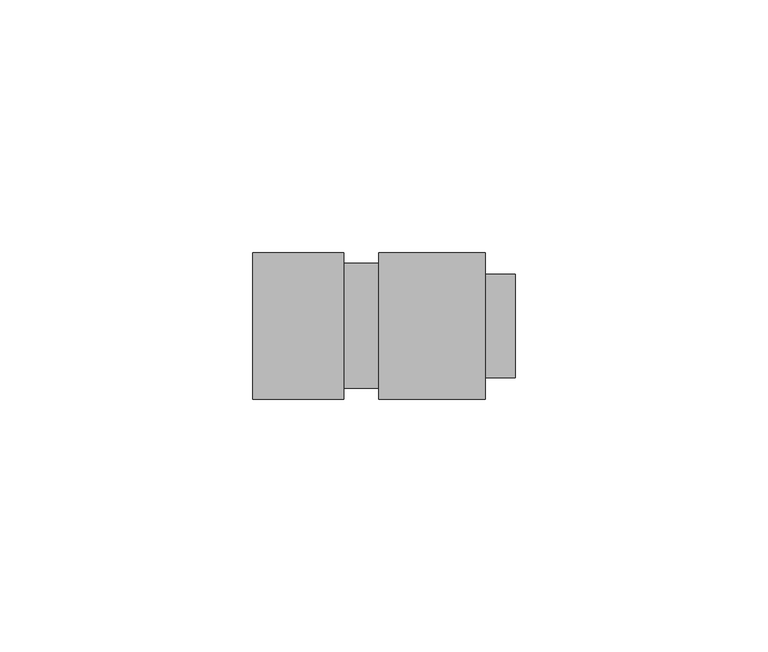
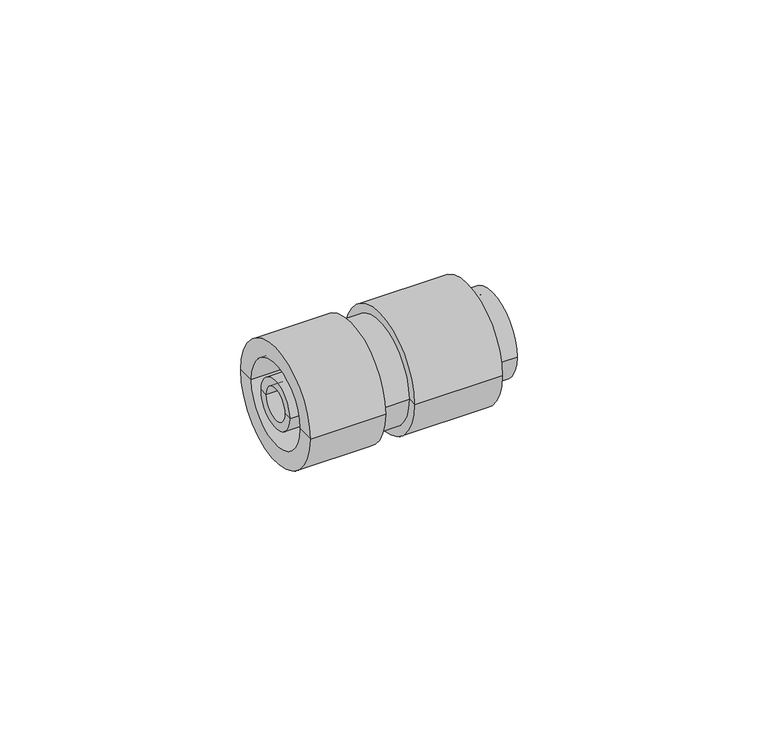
"""IFC4 building model written with IfcOpenShell, lengths in millimetres: cable carrier fitting geometry, КНС_ПереходникАрмированнаяТрубаКоробка_IP65_DKC : Коробка."""

from ifc_helpers import new_model, si_unit, frame, origin, place, context, project, spatial, polyline, circle_curve, source, transform, mapped, element, save
from ifc_brep_helpers import plane_surface, cylinder_surface, revolved_surface, advanced_brep


def cable_carrier_fitting_1d1fce48(model_context):
    return source(origin(), model_context, "Body", "AdvancedBrep", [
        advanced_brep(
        [(34.0, -8.1853846, 0.0), (34.0, 8.1853846, 0.0), (0.0, 8.1853846, 0.0), (0.0, -8.1853846, 0.0), (34.0, -10.25, 0.0), (34.0, 10.25, 0.0), (28.0, -10.25, 0.0), (28.0, 10.25, 0.0), (28.0, -14.5, 0.0), (28.0, 14.5, 0.0), (7.0, -14.5, 0.0), (7.0, 14.5, 0.0), (7.0, -12.375, 0.0), (7.0, 12.375, 0.0), (0.0, -12.375, 0.0), (0.0, 12.375, 0.0)],
        [
            (0, 1, circle_curve(frame((34.0, 0.0, 0.0), z_axis=(1.0, 0.0, 0.0), x_axis=(0.0, 1.0, 0.0)), 8.1853846)),
            (1, 2),
            (2, 3, circle_curve(frame((0.0, 0.0, 0.0), z_axis=(-1.0, 0.0, 0.0), x_axis=(0.0, 1.0, 0.0)), 8.1853846)),
            (3, 0),
            (1, 0, circle_curve(frame((34.0, 0.0, 0.0), z_axis=(1.0, 0.0, 0.0), x_axis=(0.0, 1.0, 0.0)), 8.1853846)),
            (3, 2, circle_curve(frame((0.0, 0.0, 0.0), z_axis=(-1.0, 0.0, 0.0), x_axis=(0.0, 1.0, 0.0)), 8.1853846)),
            (4, 5, circle_curve(frame((34.0, 0.0, 0.0), z_axis=(1.0, 0.0, 0.0), x_axis=(0.0, 1.0, 0.0)), 10.25)),
            (5, 1),
            (0, 4),
            (5, 4, circle_curve(frame((34.0, 0.0, 0.0), z_axis=(1.0, 0.0, 0.0), x_axis=(0.0, 1.0, 0.0)), 10.25)),
            (6, 7, circle_curve(frame((28.0, 0.0, 0.0), z_axis=(1.0, 0.0, 0.0), x_axis=(0.0, 1.0, 0.0)), 10.25)),
            (7, 5),
            (4, 6),
            (7, 6, circle_curve(frame((28.0, 0.0, 0.0), z_axis=(1.0, 0.0, 0.0), x_axis=(0.0, 1.0, 0.0)), 10.25)),
            (8, 9, circle_curve(frame((28.0, 0.0, 0.0), z_axis=(1.0, 0.0, 0.0), x_axis=(0.0, 1.0, 0.0)), 14.5)),
            (9, 7),
            (6, 8),
            (9, 8, circle_curve(frame((28.0, 0.0, 0.0), z_axis=(1.0, 0.0, 0.0), x_axis=(0.0, 1.0, 0.0)), 14.5)),
            (10, 11, circle_curve(frame((7.0, 0.0, 0.0), z_axis=(1.0, 0.0, 0.0), x_axis=(0.0, 1.0, 0.0)), 14.5)),
            (11, 9),
            (8, 10),
            (11, 10, circle_curve(frame((7.0, 0.0, 0.0), z_axis=(1.0, 0.0, 0.0), x_axis=(0.0, 1.0, 0.0)), 14.5)),
            (12, 13, circle_curve(frame((7.0, 0.0, 0.0), z_axis=(1.0, 0.0, 0.0), x_axis=(0.0, 1.0, 0.0)), 12.375)),
            (13, 11),
            (10, 12),
            (13, 12, circle_curve(frame((7.0, 0.0, 0.0), z_axis=(1.0, 0.0, 0.0), x_axis=(0.0, 1.0, 0.0)), 12.375)),
            (14, 15, circle_curve(frame((0.0, 0.0, 0.0), z_axis=(1.0, 0.0, 0.0), x_axis=(0.0, 1.0, 0.0)), 12.375)),
            (15, 13),
            (12, 14),
            (15, 14, circle_curve(frame((0.0, 0.0, 0.0), z_axis=(1.0, 0.0, 0.0), x_axis=(0.0, 1.0, 0.0)), 12.375)),
            (2, 15),
            (14, 3),
        ],
        [
            revolved_surface(polyline([(0.0, 8.1853846, 0.0), (34.0, 8.1853846, 0.0)]), (1522.5, 0.0, 0.0), (-1.0, 0.0, 0.0)),
            plane_surface(frame((34.0, 0.0, 0.0), z_axis=(1.0, 0.0, 0.0), x_axis=(0.0, 1.0, 0.0))),
            cylinder_surface(frame((1522.5, 0.0, 0.0), z_axis=(-1.0, 0.0, 0.0), x_axis=(0.0, 1.0, 0.0)), 10.25),
            plane_surface(frame((28.0, 0.0, 0.0), z_axis=(1.0, 0.0, 0.0), x_axis=(0.0, 1.0, 0.0))),
            cylinder_surface(frame((1522.5, 0.0, 0.0), z_axis=(-1.0, 0.0, 0.0), x_axis=(0.0, 1.0, 0.0)), 14.5),
            plane_surface(frame((7.0, 0.0, 0.0), z_axis=(-1.0, 0.0, 0.0), x_axis=(0.0, 1.0, 0.0))),
            cylinder_surface(frame((1522.5, 0.0, 0.0), z_axis=(-1.0, 0.0, 0.0), x_axis=(0.0, 1.0, 0.0)), 12.375),
            plane_surface(frame((0.0, 0.0, 0.0), z_axis=(-1.0, 0.0, 0.0), x_axis=(0.0, 1.0, 0.0))),
        ],
        [
            (0, [[1, 2, 3, 4]]),
            (0, [[5, -4, 6, -2]]),
            (1, [[7, 8, -1, 9]]),
            (1, [[10, -9, -5, -8]]),
            (2, [[11, 12, -7, 13]]),
            (2, [[14, -13, -10, -12]]),
            (3, [[15, 16, -11, 17]]),
            (3, [[18, -17, -14, -16]]),
            (4, [[19, 20, -15, 21]]),
            (4, [[22, -21, -18, -20]]),
            (5, [[23, 24, -19, 25]]),
            (5, [[26, -25, -22, -24]]),
            (6, [[27, 28, -23, 29]]),
            (6, [[30, -29, -26, -28]]),
            (7, [[-3, 31, -27, 32]]),
            (7, [[-6, -32, -30, -31]]),
        ],
    ),
        advanced_brep(
        [(0.0, -14.5, 0.0), (0.0, 14.5, 0.0), (0.0, 10.25, 0.0), (0.0, -10.25, 0.0), (-18.0, -14.5, 0.0), (-18.0, 14.5, 0.0), (-18.0, -10.25, 0.0), (-18.0, 10.25, 0.0)],
        [
            (0, 1, circle_curve(frame((0.0, 0.0, 0.0), z_axis=(1.0, 0.0, 0.0), x_axis=(0.0, 1.0, 0.0)), 14.5)),
            (1, 2),
            (2, 3, circle_curve(frame((0.0, 0.0, 0.0), z_axis=(-1.0, 0.0, 0.0), x_axis=(0.0, 1.0, 0.0)), 10.25)),
            (3, 0),
            (1, 0, circle_curve(frame((0.0, 0.0, 0.0), z_axis=(1.0, 0.0, 0.0), x_axis=(0.0, 1.0, 0.0)), 14.5)),
            (3, 2, circle_curve(frame((0.0, 0.0, 0.0), z_axis=(-1.0, 0.0, 0.0), x_axis=(0.0, 1.0, 0.0)), 10.25)),
            (4, 5, circle_curve(frame((-18.0, 0.0, 0.0), z_axis=(1.0, 0.0, 0.0), x_axis=(0.0, 1.0, 0.0)), 14.5)),
            (5, 1),
            (0, 4),
            (5, 4, circle_curve(frame((-18.0, 0.0, 0.0), z_axis=(1.0, 0.0, 0.0), x_axis=(0.0, 1.0, 0.0)), 14.5)),
            (6, 7, circle_curve(frame((-18.0, 0.0, 0.0), z_axis=(1.0, 0.0, 0.0), x_axis=(0.0, 1.0, 0.0)), 10.25)),
            (7, 5),
            (4, 6),
            (7, 6, circle_curve(frame((-18.0, 0.0, 0.0), z_axis=(1.0, 0.0, 0.0), x_axis=(0.0, 1.0, 0.0)), 10.25)),
            (2, 7),
            (6, 3),
        ],
        [
            plane_surface(frame((0.0, 0.0, 0.0), z_axis=(1.0, 0.0, 0.0), x_axis=(0.0, 1.0, 0.0))),
            cylinder_surface(frame((1522.5, 0.0, 0.0), z_axis=(-1.0, 0.0, 0.0), x_axis=(0.0, 1.0, 0.0)), 14.5),
            plane_surface(frame((-18.0, 0.0, 0.0), z_axis=(-1.0, 0.0, 0.0), x_axis=(0.0, 1.0, 0.0))),
            revolved_surface(polyline([(-18.0, 10.25, 0.0), (0.0, 10.25, 0.0)]), (1522.5, 0.0, 0.0), (-1.0, 0.0, 0.0)),
        ],
        [
            (0, [[1, 2, 3, 4]]),
            (0, [[5, -4, 6, -2]]),
            (1, [[7, 8, -1, 9]]),
            (1, [[10, -9, -5, -8]]),
            (2, [[11, 12, -7, 13]]),
            (2, [[14, -13, -10, -12]]),
            (3, [[-3, 15, -11, 16]]),
            (3, [[-6, -16, -14, -15]]),
        ],
    ),
        advanced_brep(
        [(-18.0, -6.0, 0.0), (-18.0, 6.0, 0.0), (0.0, 6.0, 0.0), (0.0, -6.0, 0.0), (-18.0, -4.0, 0.0), (-18.0, 4.0, 0.0), (0.0, -4.0, 0.0), (0.0, 4.0, 0.0)],
        [
            (0, 1, circle_curve(frame((-18.0, 0.0, 0.0), z_axis=(1.0, 0.0, 0.0), x_axis=(0.0, 1.0, 0.0)), 6.0)),
            (1, 2),
            (2, 3, circle_curve(frame((0.0, 0.0, 0.0), z_axis=(-1.0, 0.0, 0.0), x_axis=(0.0, 1.0, 0.0)), 6.0)),
            (3, 0),
            (1, 0, circle_curve(frame((-18.0, 0.0, 0.0), z_axis=(1.0, 0.0, 0.0), x_axis=(0.0, 1.0, 0.0)), 6.0)),
            (3, 2, circle_curve(frame((0.0, 0.0, 0.0), z_axis=(-1.0, 0.0, 0.0), x_axis=(0.0, 1.0, 0.0)), 6.0)),
            (4, 5, circle_curve(frame((-18.0, 0.0, 0.0), z_axis=(1.0, 0.0, 0.0), x_axis=(0.0, 1.0, 0.0)), 4.0)),
            (5, 1),
            (0, 4),
            (5, 4, circle_curve(frame((-18.0, 0.0, 0.0), z_axis=(1.0, 0.0, 0.0), x_axis=(0.0, 1.0, 0.0)), 4.0)),
            (6, 7, circle_curve(frame((0.0, 0.0, 0.0), z_axis=(1.0, 0.0, 0.0), x_axis=(0.0, 1.0, 0.0)), 4.0)),
            (7, 5),
            (4, 6),
            (7, 6, circle_curve(frame((0.0, 0.0, 0.0), z_axis=(1.0, 0.0, 0.0), x_axis=(0.0, 1.0, 0.0)), 4.0)),
            (2, 7),
            (6, 3),
        ],
        [
            cylinder_surface(frame((1522.5, 0.0, 0.0), z_axis=(-1.0, 0.0, 0.0), x_axis=(0.0, 1.0, 0.0)), 6.0),
            plane_surface(frame((-18.0, 0.0, 0.0), z_axis=(-1.0, 0.0, 0.0), x_axis=(0.0, 1.0, 0.0))),
            revolved_surface(polyline([(-18.0, 4.0, 0.0), (0.0, 4.0, 0.0)]), (1522.5, 0.0, 0.0), (-1.0, 0.0, 0.0)),
            plane_surface(frame((0.0, 0.0, 0.0), z_axis=(1.0, 0.0, 0.0), x_axis=(0.0, 1.0, 0.0))),
        ],
        [
            (0, [[1, 2, 3, 4]]),
            (0, [[5, -4, 6, -2]]),
            (1, [[7, 8, -1, 9]]),
            (1, [[10, -9, -5, -8]]),
            (2, [[11, 12, -7, 13]]),
            (2, [[14, -13, -10, -12]]),
            (3, [[-3, 15, -11, 16]]),
            (3, [[-6, -16, -14, -15]]),
        ],
    ),
    ])


if __name__ == "__main__":
    model = new_model("IFC4")
    model_context = context("Model", 3, world=origin())
    ifc_project = project(units=[si_unit("LENGTHUNIT", "METRE", prefix="MILLI")], contexts=[model_context])
    site = spatial("IfcSite", under=ifc_project)
    building = spatial("IfcBuilding", under=site)
    placement = place(None, origin())
    cable_carrier_fitting_shape = cable_carrier_fitting_1d1fce48(model_context)
    element("IfcCableCarrierFitting", 1, ObjectType="КНС_ПереходникАрмированнаяТрубаКоробка_IP65_DKC : Коробка", at=placement, inside=building, context=model_context, shape_type="MappedRepresentation", body=[
        mapped(cable_carrier_fitting_shape, transform((0.0, 0.0, 0.0), x_axis=(1.0, 0.0, 0.0), y_axis=(0.0, 1.0, 0.0), z_axis=(0.0, 0.0, 1.0))),
    ])
    save(model, "model.ifc")
